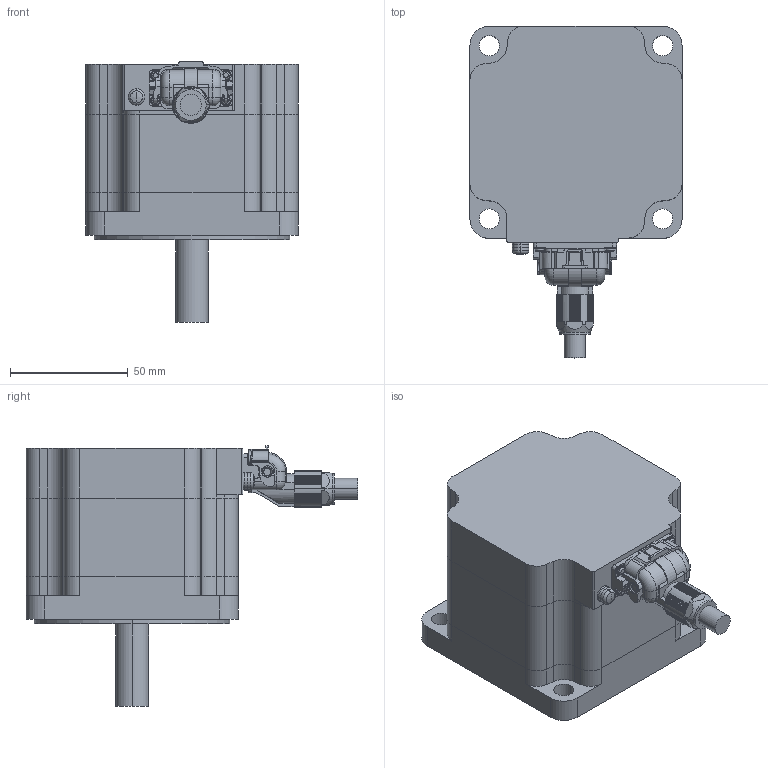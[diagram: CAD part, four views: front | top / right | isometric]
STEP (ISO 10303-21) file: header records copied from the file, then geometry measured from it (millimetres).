
FILE_DESCRIPTION (( 'STEP AP203' ), '1' );
FILE_NAME ('A1760_V.step', '2025-10-07T05:03:36', ( '' ), ( '' ), 'SwSTEP 2.0', 'SolidWorks 2023', '' );
FILE_SCHEMA (( 'CONFIG_CONTROL_DESIGN' ));
Length unit declared in the file: millimetre
Products named in the file (1): A1760_V
Bounding box: 90 x 140.9 x 110.7 mm (x, y, z)
Volume: 548967.1 mm3; surface area: 48132.1 mm2
Topology: 1 solids, 7 shells, 612 faces, 1645 edges, 1056 vertices
Faces by surface type: plane 346, cylinder 242, torus 12, cone 8, sphere 4
Entity records: 19283 total; most frequent: CARTESIAN_POINT 3500, DIRECTION 3370, ORIENTED_EDGE 3282, EDGE_CURVE 1641, AXIS2_PLACEMENT_3D 1146, VECTOR 1078, LINE 1078, VERTEX_POINT 1056
